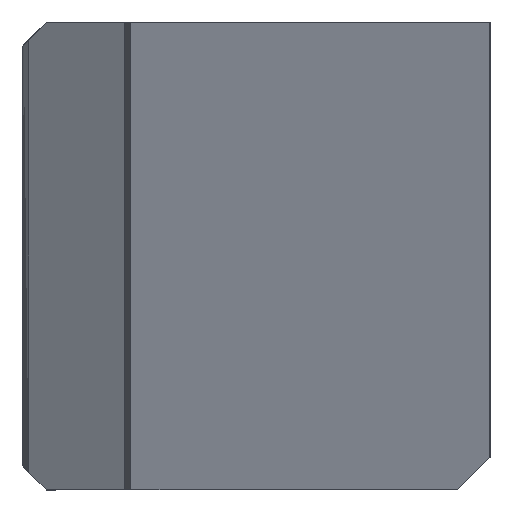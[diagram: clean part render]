
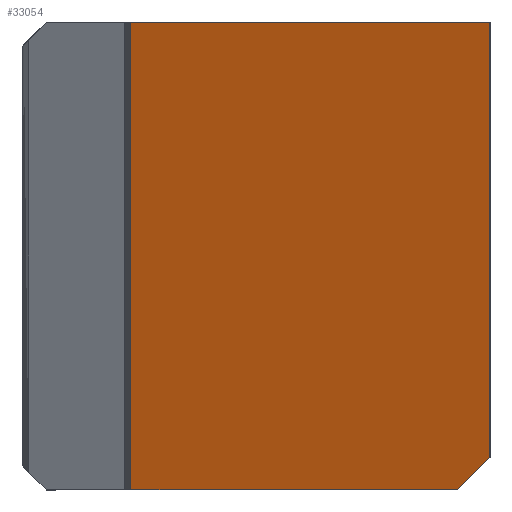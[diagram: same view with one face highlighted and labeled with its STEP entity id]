
A CAD part, left-side view. The second image highlights one B-rep face of the part: STEP entity #33054.
In plain terms, the highlighted planar face has unit normal (-0.943, 0, -0.334).
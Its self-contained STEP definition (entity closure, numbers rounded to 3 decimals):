
#1524 = ORIENTED_EDGE ( 'NONE', *, *, #27223, .F. ) ;
#2229 = ORIENTED_EDGE ( 'NONE', *, *, #25993, .F. ) ;
#2971 = DIRECTION ( 'NONE',  ( -0.334, 0., 0.942 ) ) ;
#4679 = CARTESIAN_POINT ( 'NONE',  ( 10.286, 22.25, -29. ) ) ;
#5963 = CARTESIAN_POINT ( 'NONE',  ( 0., 0., 0. ) ) ;
#6262 = CARTESIAN_POINT ( 'NONE',  ( 10.286, 0., -29. ) ) ;
#8562 = LINE ( 'NONE', #36252, #27075 ) ;
#8771 = EDGE_LOOP ( 'NONE', ( #18041, #30909, #1524, #34825, #2229 ) ) ;
#9181 = EDGE_CURVE ( 'NONE', #31318, #11718, #8562, .T. ) ;
#10137 = DIRECTION ( 'NONE',  ( 0., 1., 0. ) ) ;
#10983 = VERTEX_POINT ( 'NONE', #17237 ) ;
#11718 = VERTEX_POINT ( 'NONE', #5963 ) ;
#12559 = VERTEX_POINT ( 'NONE', #20506 ) ;
#12613 = CARTESIAN_POINT ( 'NONE',  ( 0., 0., 0. ) ) ;
#15254 = LINE ( 'NONE', #35256, #17937 ) ;
#15405 = EDGE_CURVE ( 'NONE', #12559, #10983, #26947, .T. ) ;
#16298 = VECTOR ( 'NONE', #35568, 1000. ) ;
#17059 = CARTESIAN_POINT ( 'NONE',  ( 0., 22.25, 0. ) ) ;
#17237 = CARTESIAN_POINT ( 'NONE',  ( 9.576, 0., -27. ) ) ;
#17774 = DIRECTION ( 'NONE',  ( 0.334, 0., -0.942 ) ) ;
#17937 = VECTOR ( 'NONE', #10137, 1000. ) ;
#18041 = ORIENTED_EDGE ( 'NONE', *, *, #23174, .F. ) ;
#18523 = VECTOR ( 'NONE', #17774, 1000. ) ;
#20506 = CARTESIAN_POINT ( 'NONE',  ( 10.286, 2., -29. ) ) ;
#21864 = LINE ( 'NONE', #17059, #27877 ) ;
#22964 = FACE_OUTER_BOUND ( 'NONE', #8771, .T. ) ;
#23174 = EDGE_CURVE ( 'NONE', #12559, #25585, #15254, .T. ) ;
#24203 = CARTESIAN_POINT ( 'NONE',  ( 4.505, -14.299, -12.701 ) ) ;
#25369 = DIRECTION ( 'NONE',  ( -0.334, 0., 0.942 ) ) ;
#25585 = VERTEX_POINT ( 'NONE', #4679 ) ;
#25993 = EDGE_CURVE ( 'NONE', #25585, #31318, #21864, .T. ) ;
#26560 = PLANE ( 'NONE',  #28584 ) ;
#26947 = LINE ( 'NONE', #24203, #16298 ) ;
#27075 = VECTOR ( 'NONE', #28171, 1000. ) ;
#27223 = EDGE_CURVE ( 'NONE', #11718, #10983, #31389, .T. ) ;
#27877 = VECTOR ( 'NONE', #2971, 1000. ) ;
#28171 = DIRECTION ( 'NONE',  ( 0., -1., 0. ) ) ;
#28584 = AXIS2_PLACEMENT_3D ( 'NONE', #12613, #35001, #25369 ) ;
#30909 = ORIENTED_EDGE ( 'NONE', *, *, #15405, .T. ) ;
#31318 = VERTEX_POINT ( 'NONE', #33414 ) ;
#31389 = LINE ( 'NONE', #6262, #18523 ) ;
#33054 = ADVANCED_FACE ( 'NONE', ( #22964 ), #26560, .T. ) ;
#33414 = CARTESIAN_POINT ( 'NONE',  ( 0., 22.25, 0. ) ) ;
#34825 = ORIENTED_EDGE ( 'NONE', *, *, #9181, .F. ) ;
#35001 = DIRECTION ( 'NONE',  ( -0.942, 0., -0.334 ) ) ;
#35256 = CARTESIAN_POINT ( 'NONE',  ( 10.286, 29., -29. ) ) ;
#35568 = DIRECTION ( 'NONE',  ( -0.243, -0.686, 0.686 ) ) ;
#36252 = CARTESIAN_POINT ( 'NONE',  ( 0., 29., 0. ) ) ;
